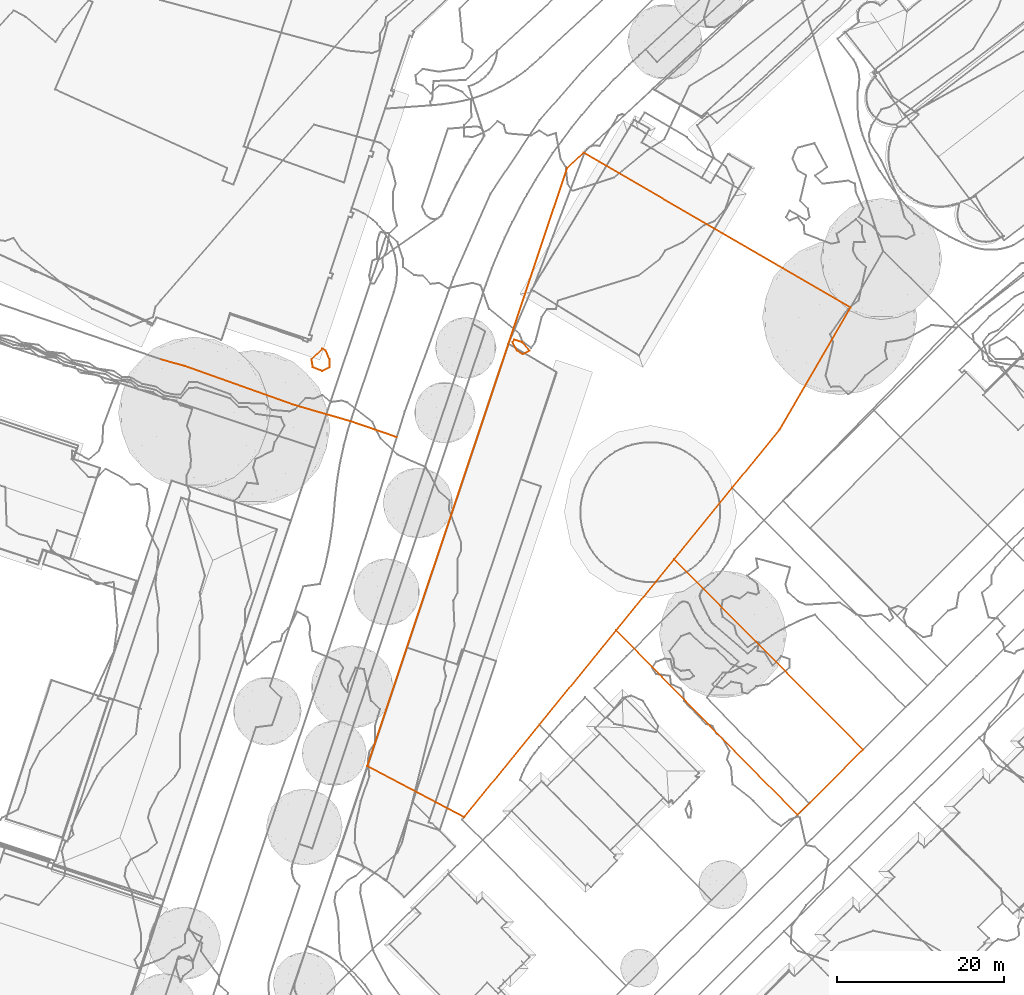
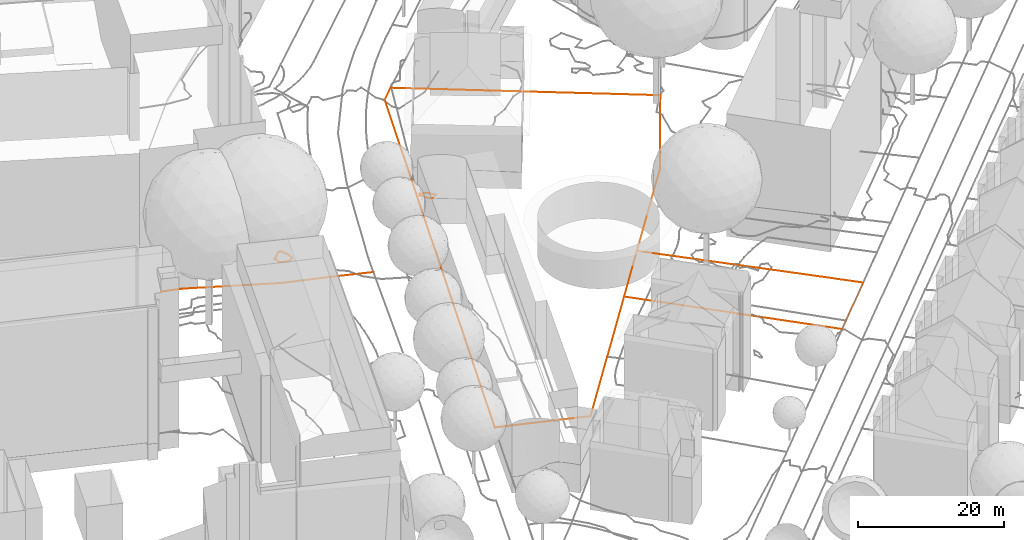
# Not in any storey, part 107 of 477: 4 geographic elements, 3 civil elements.
"""IFC4 model written with IfcOpenShell, lengths in metres."""

from ifc_helpers import new_model, entity, si_unit, frame, origin_with_axes, place, context, subcontext, project, spatial, element, save


model = new_model("IFC4")

# Units and contexts
model_context = context("Model", 3, precision=1e-05, world=origin_with_axes())
body_context = subcontext(model_context, "Body", "Model", "MODEL_VIEW")
ifc_project = project(units=[si_unit("AREAUNIT", "SQUARE_METRE"), si_unit("LENGTHUNIT", "METRE")], contexts=[model_context])

# Sites
site_1_placement = place(None, origin_with_axes())
site_1 = spatial("IfcSite", under=ifc_project, at=site_1_placement, Name="Topoexport Site")
site_2_placement = place(site_1_placement, origin_with_axes())
site_2 = spatial("IfcSite", under=site_1, at=site_2_placement, Name="TPX_ROADS")

# Civil elements
civil_element_1_placement = place(site_2_placement, frame((67.1447320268, 187.6957374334, 532.061), z_axis=(0.0, 0.0, 1.0), x_axis=(1.0, 0.0, 0.0)))
element("IfcCivilElement", 1, at=civil_element_1_placement, inside=site_2, Name="Road 85", ObjectType="ROAD", context=body_context, shape_type="GeometricCurveSet", body=[
    entity("IfcGeometricCurveSet", [entity("IfcIndexedPolyCurve", entity("IfcCartesianPointList3D", [[0.0, 0.0, 0.0], [6.8790000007, -1.9849999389, -0.152], [12.4620000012, -3.914999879, -0.137]]))]),
])
civil_element_2_placement = place(site_2_placement, frame((54.1807320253, 192.3257372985, 532.854), z_axis=(0.0, 0.0, 1.0), x_axis=(1.0, 0.0, 0.0)))
element("IfcCivilElement", 2, at=civil_element_2_placement, inside=site_2, Name="Road 155", ObjectType="ROAD", context=body_context, shape_type="GeometricCurveSet", body=[
    entity("IfcGeometricCurveSet", [entity("IfcIndexedPolyCurve", entity("IfcCartesianPointList3D", [[0.0, 0.0, 0.0], [12.9640000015, -4.6299998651, -0.793]]))]),
])
civil_element_3_placement = place(site_2_placement, frame((51.2697320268, 193.1197372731, 532.885), z_axis=(0.0, 0.0, 1.0), x_axis=(1.0, 0.0, 0.0)))
element("IfcCivilElement", 3, at=civil_element_3_placement, inside=site_2, Name="Road 156", ObjectType="ROAD", context=body_context, shape_type="GeometricCurveSet", body=[
    entity("IfcGeometricCurveSet", [entity("IfcIndexedPolyCurve", entity("IfcCartesianPointList3D", [[0.0, 0.0, 0.0], [2.9109999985, -0.7939999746, -0.031]]))]),
])

# Site
site_3_placement = place(site_1_placement, origin_with_axes())
site_3 = spatial("IfcSite", under=site_1, at=site_3_placement, Name="TPX_CADASTRES")

# Geographic elements
geographic_element_1_placement = place(site_3_placement, frame((76.0587320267, 144.3647160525, 531.0605458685), z_axis=(0.0, 0.0, 1.0), x_axis=(1.0, 0.0, 0.0)))
element("IfcGeographicElement", 4, at=geographic_element_1_placement, inside=site_3, Name="Cadastre 89", PredefinedType="NOTDEFINED", context=body_context, shape_type="GeometricCurveSet", body=[
    entity("IfcGeometricCurveSet", [entity("IfcIndexedPolyCurve", entity("IfcCartesianPointList3D", [[0.0, 0.0, 0.0], [23.9619999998, 71.7019999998, 2.9849385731], [25.9300000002, 73.5199999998, 3.1794816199], [57.9160000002, 54.9519999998, 1.9941676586], [49.4360000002, 40.348, 1.5693953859], [43.7459999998, 33.3559999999, 1.5828651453], [36.7960000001, 24.8139999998, 1.6217931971], [29.8560000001, 16.291, 1.5617126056], [20.6359999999, 4.9679999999, 1.5827499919], [11.6069999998, -6.125, 1.5508897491], [0.0, 0.0, 0.0]]))]),
])
geographic_element_2_placement = place(site_3_placement, frame((105.9147320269, 160.6557160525, 532.6222584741), z_axis=(0.0, 0.0, 1.0), x_axis=(1.0, 0.0, 0.0)))
element("IfcGeographicElement", 5, at=geographic_element_2_placement, inside=site_3, Name="Cadastre 97", PredefinedType="NOTDEFINED", context=body_context, shape_type="GeometricCurveSet", body=[
    entity("IfcGeometricCurveSet", [entity("IfcIndexedPolyCurve", entity("IfcCartesianPointList3D", [[0.0, 0.0, 0.0], [6.9399999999, 8.5229999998, 0.0600805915], [29.605, -14.2880000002, 0.654844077], [21.7249999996, -22.1300000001, 0.3821062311], [0.0, 0.0, 0.0]]))]),
])

# Site
site_4_placement = place(site_1_placement, origin_with_axes())
site_4 = spatial("IfcSite", under=site_1, at=site_4_placement, Name="TPX_CONTOUR_LINES")

# Geographic elements
geographic_element_3_placement = place(site_4_placement, frame((93.460152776, 195.1707160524, 533.0), z_axis=(0.0, 0.0, 1.0), x_axis=(1.0, 0.0, 0.0)))
element("IfcGeographicElement", 6, at=geographic_element_3_placement, inside=site_4, Name="Contour Line 533.0 m", PredefinedType="NOTDEFINED", context=body_context, shape_type="GeometricCurveSet", body=[
    entity("IfcGeometricCurveSet", [entity("IfcIndexedPolyCurve", entity("IfcCartesianPointList3D", [[2.0553968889, -1.0, 0.0], [1.2175792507, -1.4387475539, 0.0], [0.5566122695, -1.0, 0.0], [0.0, 0.0, 0.0], [0.2175792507, 0.3044354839, 0.0], [1.2175792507, -0.0201048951, 0.0], [2.0553968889, -1.0, 0.0]]))]),
])
geographic_element_4_placement = place(site_4_placement, frame((69.3824279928, 193.1707160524, 532.0), z_axis=(0.0, 0.0, 1.0), x_axis=(1.0, 0.0, 0.0)))
element("IfcGeographicElement", 7, at=geographic_element_4_placement, inside=site_4, Name="Contour Line 532.0 m", PredefinedType="NOTDEFINED", context=body_context, shape_type="GeometricCurveSet", body=[
    entity("IfcGeometricCurveSet", [entity("IfcIndexedPolyCurve", entity("IfcCartesianPointList3D", [[1.2953040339, -1.4605597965, 0.0], [2.1572087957, -1.0, 0.0], [2.1419797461, 0.0, 0.0], [1.7153172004, 1.0, 0.0], [1.2953040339, 1.2100065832, 0.0], [0.0, 0.0, 0.0], [0.1469360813, -1.0, 0.0], [1.2953040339, -1.4605597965, 0.0]]))]),
])

save(model, "model.ifc")
